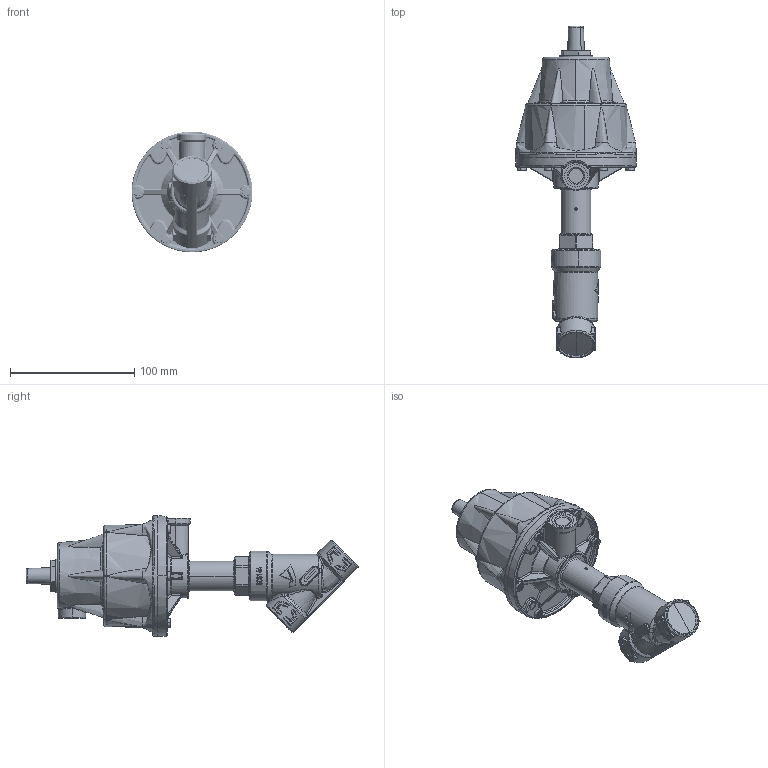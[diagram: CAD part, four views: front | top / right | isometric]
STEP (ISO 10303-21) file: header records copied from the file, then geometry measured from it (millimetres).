
FILE_DESCRIPTION( (''), '2;1');
FILE_NAME ('PC1276.13160.ASV-1000 20A_5709.stp','2025-09-24T09:33:08',(''),(''),'spGate 20.6.3 (****-****-****-****)','','');
FILE_SCHEMA (('AUTOMOTIVE_DESIGN'));
Length unit declared in the file: millimetre
Products named in the file (7): Assembly; Body 20A改1(フロービロー（1000、-C)); Packing case 20A; ASV-1000 20A_M1; TORX screw T20M4-16; Actuator cover(ノーマルクローズ); Actuator base
Assembly tree (11 placements, depth 2):
  Assembly
    Body 20A改1(フロービロー（1000、-C))
    Packing case 20A
    ASV-1000 20A_M1
    TORX screw T20M4-16  x6
    Actuator cover(ノーマルクローズ)
    Actuator base
Bounding box: 97 x 266.73 x 97 mm (x, y, z)
Volume: 599861.5 mm3; surface area: 88410.6 mm2
Topology: 11 solids, 11 shells, 1818 faces, 4580 edges, 2728 vertices
Faces by surface type: cylinder 717, bspline 694, plane 309, sphere 98
Entity records: 100069 total; most frequent: CARTESIAN_POINT 45554, ORIENTED_EDGE 6626, COLOUR_RGB 4732, PRESENTATION_STYLE_ASSIGNMENT 4732, STYLED_ITEM 4732, DIRECTION 4725, EDGE_CURVE 3313, DRAUGHTING_PRE_DEFINED_CURVE_FONT 3313
